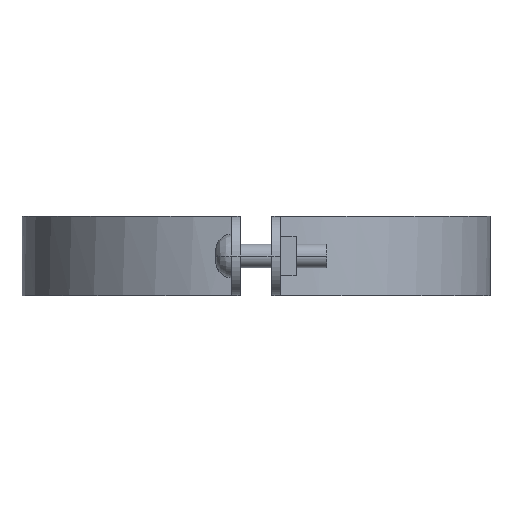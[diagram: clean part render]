
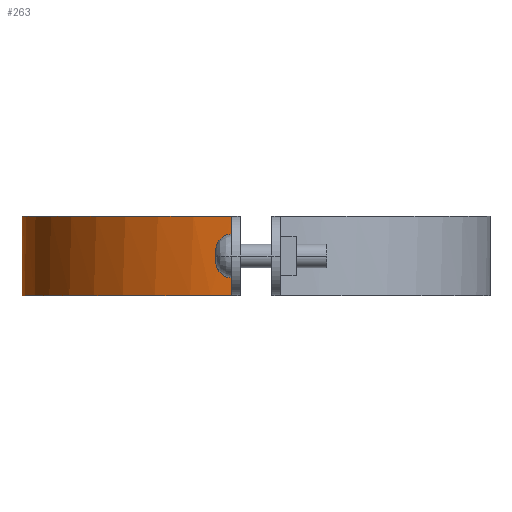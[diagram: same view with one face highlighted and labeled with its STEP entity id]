
A CAD part, left-side view. The second image highlights one B-rep face of the part: STEP entity #263.
In plain terms, the highlighted free-form (B-spline) face has degree [3, 1] with [4, 2] control points.
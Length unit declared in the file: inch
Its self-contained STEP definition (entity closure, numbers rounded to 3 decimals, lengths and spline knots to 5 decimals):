
#263=ADVANCED_FACE('',(#518),#519,.T.);
#518=FACE_OUTER_BOUND('',#1141,.T.);
#519=B_SPLINE_SURFACE_WITH_KNOTS('',3,1,((#1142,#1143),(#1144,#1145),(#1146,#1147),(#1148,#1149)),.UNSPECIFIED.,.F.,.F.,.F.,(4,4),(2,2),(0.0,1.0),(0.0,1.25),.UNSPECIFIED.);
#1141=EDGE_LOOP('',(#1749,#1750,#1751,#1752));
#1142=CARTESIAN_POINT('',(4.40565,7.14986,0.0));
#1143=CARTESIAN_POINT('',(4.40565,7.14986,1.25));
#1144=CARTESIAN_POINT('',(2.51322,7.14986,0.0));
#1145=CARTESIAN_POINT('',(2.51322,7.14986,1.25));
#1146=CARTESIAN_POINT('',(0.92646,5.72054,0.0));
#1147=CARTESIAN_POINT('',(0.92646,5.72054,1.25));
#1148=CARTESIAN_POINT('',(0.72939,3.83838,0.0));
#1149=CARTESIAN_POINT('',(0.72939,3.83838,1.25));
#1749=ORIENTED_EDGE('',*,*,#2191,.T.);
#1750=ORIENTED_EDGE('',*,*,#2165,.T.);
#1751=ORIENTED_EDGE('',*,*,#2070,.T.);
#1752=ORIENTED_EDGE('',*,*,#2192,.F.);
#2070=EDGE_CURVE('',#2394,#2391,#2395,.T.);
#2165=EDGE_CURVE('',#2534,#2394,#2536,.T.);
#2191=EDGE_CURVE('',#2569,#2534,#2570,.T.);
#2192=EDGE_CURVE('',#2569,#2391,#2571,.T.);
#2391=VERTEX_POINT('',#2902);
#2394=VERTEX_POINT('',#2906);
#2395=B_SPLINE_CURVE_WITH_KNOTS('',3,(#2907,#2908,#2909,#2910),.UNSPECIFIED.,.F.,.F.,(4,4),(-1.0,-0.0),.UNSPECIFIED.);
#2534=VERTEX_POINT('',#3169);
#2536=LINE('',#3172,#3173);
#2569=VERTEX_POINT('',#3253);
#2570=B_SPLINE_CURVE_WITH_KNOTS('',3,(#3254,#3255,#3256,#3257),.UNSPECIFIED.,.F.,.F.,(4,4),(0.0,1.0),.UNSPECIFIED.);
#2571=LINE('',#3258,#3259);
#2902=CARTESIAN_POINT('',(4.40565,7.14986,1.24992));
#2906=CARTESIAN_POINT('',(0.72939,3.83838,1.24992));
#2907=CARTESIAN_POINT('',(0.72939,3.83838,1.24992));
#2908=CARTESIAN_POINT('',(0.92646,5.72054,1.24992));
#2909=CARTESIAN_POINT('',(2.51322,7.14986,1.24992));
#2910=CARTESIAN_POINT('',(4.40565,7.14986,1.24992));
#3169=CARTESIAN_POINT('',(0.72939,3.83838,0.00011));
#3172=CARTESIAN_POINT('',(0.72939,3.83838,0.0));
#3173=VECTOR('',#3484,1.0);
#3253=CARTESIAN_POINT('',(4.40565,7.14986,0.00011));
#3254=CARTESIAN_POINT('',(4.40565,7.14986,0.00011));
#3255=CARTESIAN_POINT('',(2.51322,7.14986,0.00011));
#3256=CARTESIAN_POINT('',(0.92646,5.72054,0.00011));
#3257=CARTESIAN_POINT('',(0.72939,3.83838,0.00011));
#3258=CARTESIAN_POINT('',(4.40565,7.14986,0.0));
#3259=VECTOR('',#3493,1.0);
#3484=DIRECTION('',(0.0,0.0,1.0));
#3493=DIRECTION('',(0.0,0.0,1.0));
